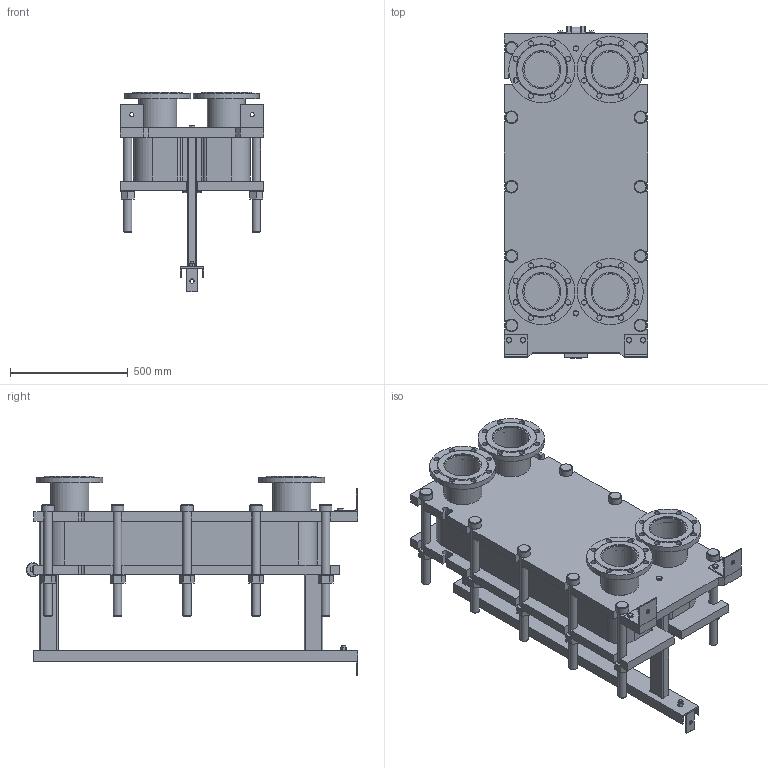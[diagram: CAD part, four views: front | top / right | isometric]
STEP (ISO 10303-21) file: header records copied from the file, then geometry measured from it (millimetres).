
FILE_DESCRIPTION(/* description */ (''),/* implementation_level */ '2;1');
FILE_NAME(/* name */ 'C:\Users\zhuro\Desktop\ENCO\TO\ЭН-041\ЭН-0,5-041-54-1.stp',/* time_stamp */ '2022-06-06T10:53:26+03:00',/* author */ ('zhuro'),/* organization */ (''),/* preprocessor_version */ 'ST-DEVELOPER v18.1',/* originating_system */ 'Autodesk Inventor 2022',/* authorisation */ '');
FILE_SCHEMA (('AUTOMOTIVE_DESIGN { 1 0 10303 214 3 1 1 }'));
Length unit declared in the file: millimetre
Products named in the file (1): ЭН-0,5-041-54-1
Bounding box: 610 x 1406.5 x 845 mm (x, y, z)
Volume: 182022679.2 mm3; surface area: 8010248.8 mm2
Topology: 52 solids, 52 shells, 711 faces, 1696 edges, 1094 vertices
Faces by surface type: plane 487, cylinder 177, cone 41, torus 6
Full cylindrical faces by diameter (mm): 8 x4, 10 x2, 16 x8, 18 x3, 22 x32, 36 x24, 50 x1, 54 x10, 60 x12, 151 x4, 161 x8, 280 x4
Entity records: 22667 total; most frequent: CARTESIAN_POINT 5230, DIRECTION 3644, ORIENTED_EDGE 3392, EDGE_CURVE 1696, AXIS2_PLACEMENT_3D 1272, LINE 1100, VECTOR 1100, VERTEX_POINT 1094
